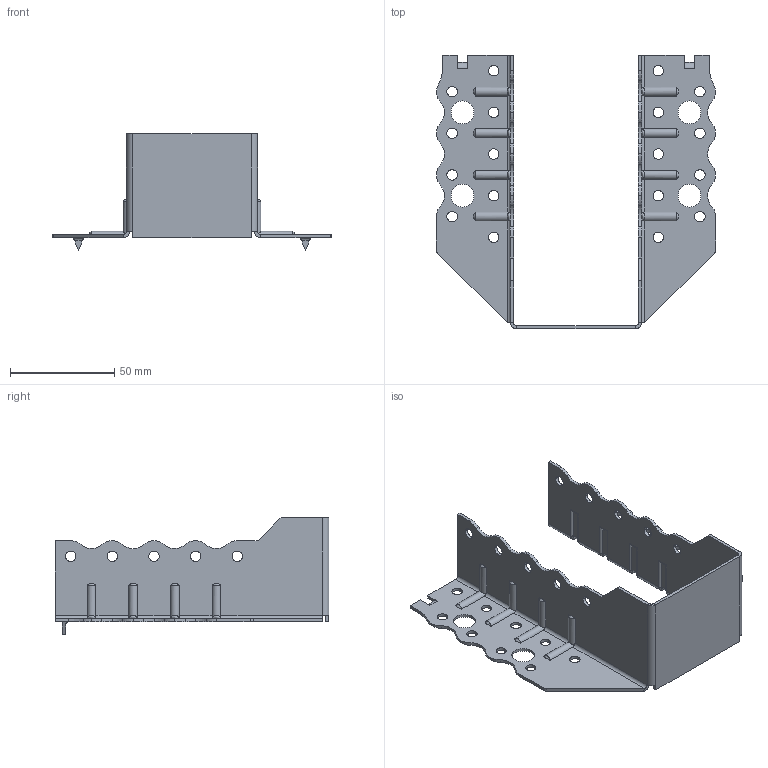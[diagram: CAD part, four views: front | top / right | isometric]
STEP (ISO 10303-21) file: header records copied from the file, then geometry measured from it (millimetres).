
FILE_DESCRIPTION (( 'STEP AP203' ), '1' );
FILE_NAME ('30609TOPK.STEP', '2021-04-08T14:23:31', ( '' ), ( '' ), 'SwSTEP 2.0', 'SolidWorks 2013', '' );
FILE_SCHEMA (( 'CONFIG_CONTROL_DESIGN' ));
Length unit declared in the file: millimetre
Products named in the file (1): 30609TOPK
Bounding box: 134 x 131.5 x 56 mm (x, y, z)
Volume: 30004.6 mm3; surface area: 42871.4 mm2
Topology: 1 solids, 1 shells, 357 faces, 957 edges, 602 vertices
Faces by surface type: cylinder 219, plane 106, torus 16, bspline 16
Entity records: 13124 total; most frequent: CARTESIAN_POINT 4079, ORIENTED_EDGE 1914, DIRECTION 1851, EDGE_CURVE 957, AXIS2_PLACEMENT_3D 672, VERTEX_POINT 602, VECTOR 507, LINE 507
